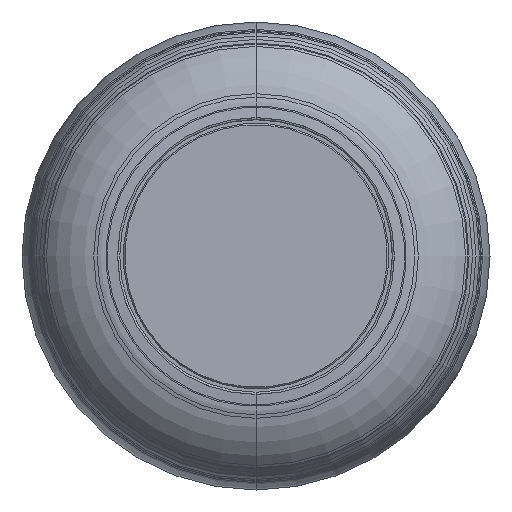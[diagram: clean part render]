
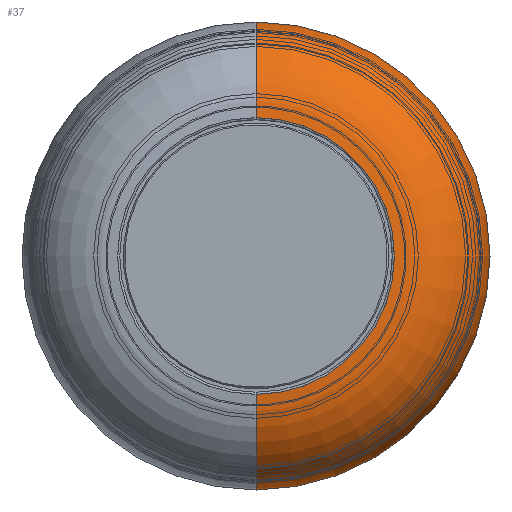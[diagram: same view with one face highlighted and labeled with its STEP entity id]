
A CAD part, front view. The second image highlights one B-rep face of the part: STEP entity #37.
In plain terms, the highlighted toroidal (fillet/blend) face has major radius 19.5 mm and minor radius 14 mm.
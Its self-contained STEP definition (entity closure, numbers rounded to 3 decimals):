
#37 = ADVANCED_FACE ( 'NONE', ( #2199 ), #87, .T. ) ;
#83 = CARTESIAN_POINT ( 'NONE',  ( 0., 0.003, 19.807 ) ) ;
#87 = TOROIDAL_SURFACE ( 'NONE', #2486, 19.5, 14. ) ;
#233 = CARTESIAN_POINT ( 'NONE',  ( 0., 14., -33.5 ) ) ;
#242 = DIRECTION ( 'NONE',  ( 0., 0., 1. ) ) ;
#359 = DIRECTION ( 'NONE',  ( 0., 0., -1. ) ) ;
#465 = VERTEX_POINT ( 'NONE', #233 ) ;
#607 = DIRECTION ( 'NONE',  ( 0., 1., 0. ) ) ;
#660 = ORIENTED_EDGE ( 'NONE', *, *, #1757, .T. ) ;
#728 = DIRECTION ( 'NONE',  ( 0., -1., 0. ) ) ;
#811 = CIRCLE ( 'NONE', #2608, 33.5 ) ;
#944 = VERTEX_POINT ( 'NONE', #1171 ) ;
#964 = DIRECTION ( 'NONE',  ( -1., 0., 0. ) ) ;
#982 = AXIS2_PLACEMENT_3D ( 'NONE', #1920, #1952, #2167 ) ;
#1025 = CIRCLE ( 'NONE', #1777, 14. ) ;
#1036 = EDGE_LOOP ( 'NONE', ( #1991, #1245, #660, #1157 ) ) ;
#1070 = CARTESIAN_POINT ( 'NONE',  ( 0., 14., 0. ) ) ;
#1122 = CARTESIAN_POINT ( 'NONE',  ( 0., 14., 0. ) ) ;
#1157 = ORIENTED_EDGE ( 'NONE', *, *, #1426, .F. ) ;
#1171 = CARTESIAN_POINT ( 'NONE',  ( 0., 0.003, -19.807 ) ) ;
#1201 = CARTESIAN_POINT ( 'NONE',  ( 0., 14., -19.5 ) ) ;
#1245 = ORIENTED_EDGE ( 'NONE', *, *, #2514, .T. ) ;
#1426 = EDGE_CURVE ( 'NONE', #465, #944, #1025, .T. ) ;
#1471 = DIRECTION ( 'NONE',  ( 0., 0., -1. ) ) ;
#1757 = EDGE_CURVE ( 'NONE', #2654, #944, #2502, .T. ) ;
#1777 = AXIS2_PLACEMENT_3D ( 'NONE', #1201, #964, #242 ) ;
#1877 = DIRECTION ( 'NONE',  ( 0., 0., 1. ) ) ;
#1920 = CARTESIAN_POINT ( 'NONE',  ( 0., 14., 19.5 ) ) ;
#1952 = DIRECTION ( 'NONE',  ( 1., 0., 0. ) ) ;
#1991 = ORIENTED_EDGE ( 'NONE', *, *, #2323, .T. ) ;
#2071 = DIRECTION ( 'NONE',  ( 0., -1., 0. ) ) ;
#2095 = CIRCLE ( 'NONE', #982, 14. ) ;
#2167 = DIRECTION ( 'NONE',  ( 0., 0., -1. ) ) ;
#2196 = AXIS2_PLACEMENT_3D ( 'NONE', #2810, #607, #1877 ) ;
#2199 = FACE_OUTER_BOUND ( 'NONE', #1036, .T. ) ;
#2323 = EDGE_CURVE ( 'NONE', #465, #2883, #811, .T. ) ;
#2486 = AXIS2_PLACEMENT_3D ( 'NONE', #1070, #728, #1471 ) ;
#2502 = CIRCLE ( 'NONE', #2196, 19.807 ) ;
#2514 = EDGE_CURVE ( 'NONE', #2883, #2654, #2095, .T. ) ;
#2608 = AXIS2_PLACEMENT_3D ( 'NONE', #1122, #2071, #359 ) ;
#2654 = VERTEX_POINT ( 'NONE', #83 ) ;
#2743 = CARTESIAN_POINT ( 'NONE',  ( 0., 14., 33.5 ) ) ;
#2810 = CARTESIAN_POINT ( 'NONE',  ( 0., 0.003, 0. ) ) ;
#2883 = VERTEX_POINT ( 'NONE', #2743 ) ;
